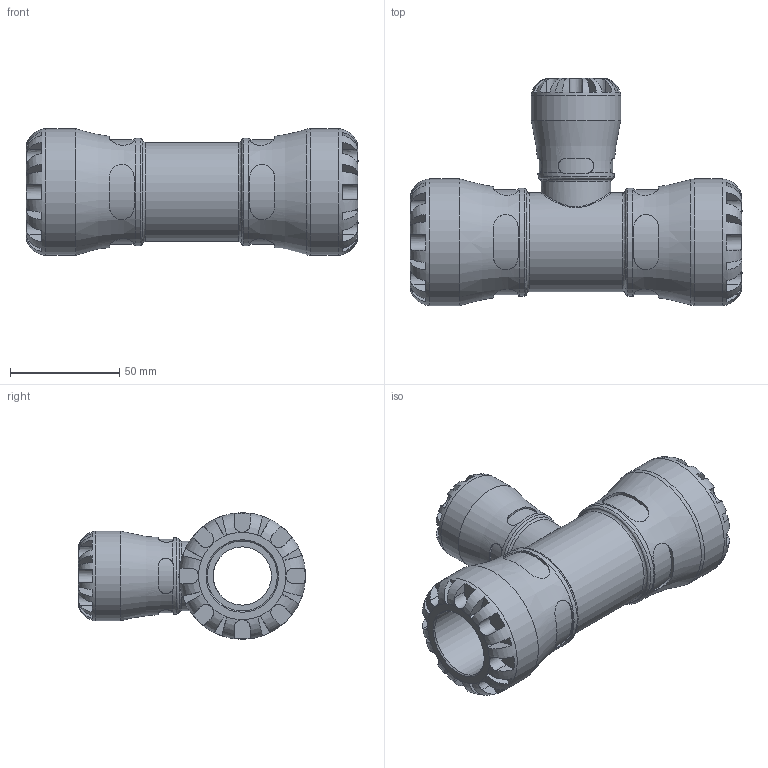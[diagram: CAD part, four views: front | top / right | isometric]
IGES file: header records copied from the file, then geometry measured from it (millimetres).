
Global section: file name: 103400032020_193400032020.ipt; native system: Autodesk Inventor 2015; preprocessor: unknown; author: KIM; date: 20170122.114056; units: millimetre
Bounding box: 152 x 104 x 58 mm (x, y, z)
Volume: 234637.5 mm3; surface area: 57123.5 mm2
Topology: 1 solids, 1 shells, 287 faces, 757 edges, 482 vertices
Faces by surface type: plane 174, revolution 68, cylinder 44, bspline 1
Full cylindrical faces by diameter (mm): 31.98 x1, 34.85 x1, 41 x1, 45.24 x1, 49.3 x2, 58 x2
